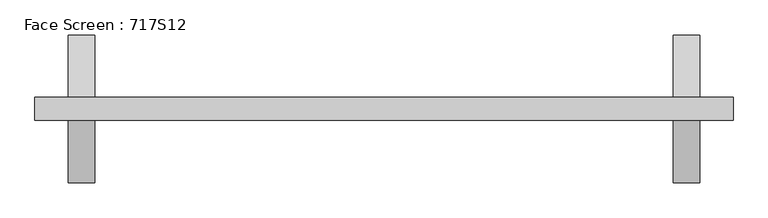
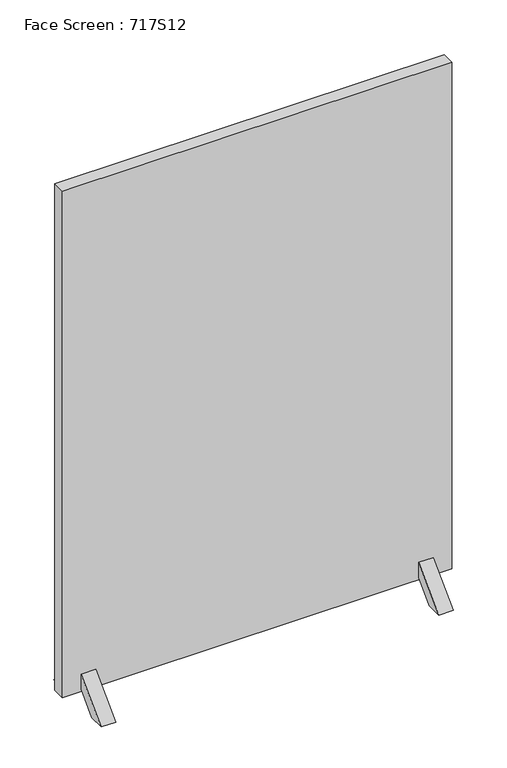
"""IFC4 building model written with IfcOpenShell, lengths in millimetres: furniture geometry, Face Screen : 717S12."""

import ifcopenshell
import ifcopenshell.guid

model = None  # the IFC model being written
_history = None  # IfcOwnerHistory: only IFC2X3 demands one
_inside = {}  # id of a spatial element -> (the spatial element, [elements in it])
_under = {}  # id of a project, library or spatial element -> (it, [spatial elements below it])
_declared = {}  # id of a project -> (the project, [libraries it declares])
_typed = {}  # id of a type object -> (the type object, [elements of that type])
_made_of = {}  # id of a material, layer set ... -> (it, [elements and type objects made of it])


def new_model(schema):
    """Start an empty IFC model of exactly this schema.

    Asked for "IFC4X3", IfcOpenShell would pick the latest addendum, in which some entities
    have other attributes; the version numbers below select the first issue.
    IFC2X3 requires an IfcOwnerHistory on every rooted entity: one is made here for all.
    """
    global model, _history
    if schema == "IFC4X3":
        model = ifcopenshell.file(schema_version=(4, 3, 0, 0))
    else:
        model = ifcopenshell.file(schema=schema)
    _inside.clear()
    _under.clear()
    _declared.clear()
    _typed.clear()
    _made_of.clear()
    _history = None
    if model.schema == "IFC2X3":
        org = make("IfcOrganization", Name="unknown")
        user = make(
            "IfcPersonAndOrganization",
            ThePerson=make("IfcPerson", FamilyName="unknown"),
            TheOrganization=org,
        )
        app = make(
            "IfcApplication",
            ApplicationDeveloper=org,
            Version="unknown",
            ApplicationFullName="unknown",
            ApplicationIdentifier="unknown",
        )
        _history = make(
            "IfcOwnerHistory",
            OwningUser=user,
            OwningApplication=app,
            ChangeAction="ADDED",
            CreationDate=0,
        )
    return model


def make(cls, **values):
    """One entity of the class cls with the attributes given. An attribute that is None is left unset."""
    return model.create_entity(
        cls, **{name: value for name, value in values.items() if value is not None}
    )


def rooted(cls, **values):
    """An entity with a GlobalId (a new one), such as an element, a storey or a relation."""
    return make(cls, GlobalId=ifcopenshell.guid.new(), OwnerHistory=_history, **values)


def si_unit(unit_type, name, prefix=None):
    """IfcSIUnit, for example si_unit("LENGTHUNIT", "METRE", prefix="MILLI")."""
    return make("IfcSIUnit", UnitType=unit_type, Prefix=prefix, Name=name)


def assignment(units):
    """IfcUnitAssignment: the units of a project."""
    return None if units is None else make("IfcUnitAssignment", Units=units)


def point(xyz):
    """IfcCartesianPoint."""
    return None if xyz is None else make("IfcCartesianPoint", Coordinates=xyz)


def direction(xyz):
    """IfcDirection."""
    return None if xyz is None else make("IfcDirection", DirectionRatios=xyz)


def frame(location, z_axis=None, x_axis=None):
    """IfcAxis2Placement3D, a coordinate frame: its origin and axes. An axis left out is left unset."""
    return make(
        "IfcAxis2Placement3D",
        Location=point(location),
        Axis=direction(z_axis),
        RefDirection=direction(x_axis),
    )


def origin():
    """The frame at (0, 0, 0) with its axes left unset."""
    return frame((0.0, 0.0, 0.0))


def place(relative_to, where):
    """IfcLocalPlacement: puts the frame where relative to a parent placement (None: the world)."""
    return make(
        "IfcLocalPlacement", PlacementRelTo=relative_to, RelativePlacement=where
    )


def context(
    kind, dimensions, precision=None, world=None, true_north=None, identifier=None
):
    """IfcGeometricRepresentationContext, for example the 3D "Model" context."""
    return make(
        "IfcGeometricRepresentationContext",
        ContextIdentifier=identifier,
        ContextType=kind,
        CoordinateSpaceDimension=dimensions,
        Precision=precision,
        WorldCoordinateSystem=world,
        TrueNorth=true_north,
    )


def project(units=None, contexts=None):
    """IfcProject with its units and contexts."""
    return rooted(
        "IfcProject",
        Name="project",
        RepresentationContexts=contexts,
        UnitsInContext=assignment(units),
    )


def spatial(cls, under=None, at=None, **own):
    """A site, building, storey or space (cls), placed at a placement, below another one or the project."""
    s = rooted(cls, ObjectPlacement=at, **own)
    if under is not None:
        _under.setdefault(under.id(), (under, []))[1].append(s)
    return s


def polyline(points):
    """IfcPolyline through the points."""
    return make("IfcPolyline", Points=[point(p) for p in points])


def outline(outer, holes=None, kind="AREA"):
    """IfcArbitraryClosedProfileDef: a profile drawn as a closed curve; with holes, ...WithVoids."""
    if holes is None:
        return make("IfcArbitraryClosedProfileDef", ProfileType=kind, OuterCurve=outer)
    return make(
        "IfcArbitraryProfileDefWithVoids",
        ProfileType=kind,
        OuterCurve=outer,
        InnerCurves=holes,
    )


def extrude(swept, where, along, depth):
    """IfcExtrudedAreaSolid: the profile swept, set in the frame where, extruded along a direction by depth."""
    return make(
        "IfcExtrudedAreaSolid",
        SweptArea=swept,
        Position=where,
        ExtrudedDirection=direction(along),
        Depth=depth,
    )


def faces_of(points, faces, orient=None, outer=None):
    """IfcFace entities. A face is a list of loops; a loop is a list of indices into points, from 0.

    orient and outer hold one flag for each loop. By default every Orientation is true, the
    first loop of a face is its IfcFaceOuterBound and the others are IfcFaceBound.
    """
    made = []
    for i, loops in enumerate(faces):
        bounds = []
        for j, loop in enumerate(loops):
            is_outer = j == 0 if outer is None else outer[i][j]
            bounds.append(
                make(
                    "IfcFaceOuterBound" if is_outer else "IfcFaceBound",
                    Bound=make("IfcPolyLoop", Polygon=[points[k] for k in loop]),
                    Orientation=True if orient is None else orient[i][j],
                )
            )
        made.append(make("IfcFace", Bounds=bounds))
    return made


def faceted_brep(points, faces, orient=None, outer=None, voids=None):
    """IfcFacetedBrep: a solid bounded by flat faces; with voids (closed shells), ...WithVoids."""
    shared = [point(p) for p in points]
    hull = make("IfcClosedShell", CfsFaces=faces_of(shared, faces, orient, outer))
    if voids is None:
        return make("IfcFacetedBrep", Outer=hull)
    return make(
        "IfcFacetedBrepWithVoids",
        Outer=hull,
        Voids=[
            make(cls, CfsFaces=faces_of(shared, fs, o, b)) for cls, fs, o, b in voids
        ],
    )


def shape(context_of_items, identifier, shape_type, items):
    """IfcShapeRepresentation: the items that make up one representation, for example the "Body"."""
    return make(
        "IfcShapeRepresentation",
        ContextOfItems=context_of_items,
        RepresentationIdentifier=identifier,
        RepresentationType=shape_type,
        Items=items,
    )


def source(mapping_origin, context_of_items, identifier, shape_type, items):
    """IfcRepresentationMap: a shape defined once, which mapped items show again and again."""
    return make(
        "IfcRepresentationMap",
        MappingOrigin=mapping_origin,
        MappedRepresentation=shape(context_of_items, identifier, shape_type, items),
    )


def transform(
    local_origin,
    x_axis=None,
    y_axis=None,
    z_axis=None,
    scale=None,
    scale2=None,
    scale3=None,
    uniform=True,
):
    """IfcCartesianTransformationOperator3D, or its non-uniform kind. x_axis, y_axis, z_axis: its Axis1, 2, 3."""
    if uniform:
        return make(
            "IfcCartesianTransformationOperator3D",
            Axis1=direction(x_axis),
            Axis2=direction(y_axis),
            LocalOrigin=point(local_origin),
            Scale=scale,
            Axis3=direction(z_axis),
        )
    return make(
        "IfcCartesianTransformationOperator3DnonUniform",
        Axis1=direction(x_axis),
        Axis2=direction(y_axis),
        LocalOrigin=point(local_origin),
        Scale=scale,
        Axis3=direction(z_axis),
        Scale2=scale2,
        Scale3=scale3,
    )


def mapped(mapping_source, mapping_target):
    """IfcMappedItem: shows the shape of a source again, moved by a transform."""
    return make(
        "IfcMappedItem", MappingSource=mapping_source, MappingTarget=mapping_target
    )


def made_of(thing, what):
    """Note that an element or type object is made of a material, layer set ...; save() writes the relation."""
    if what is not None:
        _made_of.setdefault(what.id(), (what, []))[1].append(thing)
    return thing


def element(
    cls,
    number,
    at=None,
    inside=None,
    cuts=None,
    type_object=None,
    material=None,
    context=None,
    identifier="Body",
    shape_type=None,
    held_by="IfcProductDefinitionShape",
    body=None,
    shapes=None,
    **own,
):
    """One element of the class cls, such as IfcWall. Its Tag is "e" and its number.

    at: its placement. inside: the storey or other place that contains it. cuts: it is an
    opening in that element (IfcRelVoidsElement). A single representation is given by context,
    identifier, shape_type and body (its items); several are given by shapes. held_by: the class
    of the entity that holds the representations. save() writes the other relations.
    """
    e = rooted(cls, Tag="e%d" % number, ObjectPlacement=at, **own)
    if body is not None:
        shapes = [shape(context, identifier, shape_type, body)]
    if shapes is not None:
        e.Representation = make(held_by, Representations=shapes)
    if inside is not None:
        _inside.setdefault(inside.id(), (inside, []))[1].append(e)
    if cuts is not None:
        rooted(
            "IfcRelVoidsElement", RelatingBuildingElement=cuts, RelatedOpeningElement=e
        )
    if type_object is not None:
        _typed.setdefault(type_object.id(), (type_object, []))[1].append(e)
    return made_of(e, material)


def aggregate(whole, parts):
    """IfcRelAggregates: a whole, such as a stair, and the parts it consists of."""
    return rooted("IfcRelAggregates", RelatingObject=whole, RelatedObjects=parts)


def save(model, path):
    """Write the relations noted so far, then the file.

    IfcRelAggregates (storeys below a building ...), IfcRelContainedInSpatialStructure (elements
    in a storey), IfcRelDefinesByType, IfcRelAssociatesMaterial and IfcRelDeclares: one each for
    every whole, place, type object, material and project.
    """
    for whole, parts in _under.values():
        aggregate(whole, parts)
    for where, things in _inside.values():
        rooted(
            "IfcRelContainedInSpatialStructure",
            RelatedElements=things,
            RelatingStructure=where,
        )
    for kind, things in _typed.values():
        rooted("IfcRelDefinesByType", RelatedObjects=things, RelatingType=kind)
    for what, things in _made_of.values():
        rooted("IfcRelAssociatesMaterial", RelatedObjects=things, RelatingMaterial=what)
    for by, libraries in _declared.values():
        rooted("IfcRelDeclares", RelatingContext=by, RelatedDefinitions=libraries)
    model.write(path)


def face_screen_717s12_8a0433d3(model_context):
    return source(origin(), model_context, "Body", "SolidModel", [
        faceted_brep([(509.0, 20.0, 50.0955899), (509.0, 20.0, 57.4960966), (509.0, 37.6776695, 39.8184271), (509.0, -37.6776695, 39.8184271), (509.0, -20.0, 57.4960966), (509.0, -20.0, 50.0955899), (497.5, -126.9935713, 0.0), (542.5, -126.9935713, 0.0), (542.5, -20.0, 106.9935713), (497.5, -20.0, 106.9935713), (497.5, -77.4960966, 0.0), (542.5, -77.4960966, 0.0), (497.5, -20.0, 57.4960966), (531.0, -37.6776695, 39.8184271), (531.0, -20.0, 57.4960966), (542.5, -20.0, 57.4960966), (531.0, 20.0, 50.0955899), (531.0, -20.0, 50.0955899), (531.0, 37.6776695, 39.8184271), (531.0, 20.0, 57.4960966), (542.5, 20.0, 57.4960966), (542.5, 20.0, 106.9935713), (497.5, 20.0, 106.9935713), (497.5, 20.0, 57.4960966), (497.5, 126.9935713, 0.0), (497.5, 77.4960966, 0.0), (542.5, 77.4960966, 0.0), (542.5, 126.9935713, 0.0)], [[[0, 1, 2, 3, 4, 5]], [[6, 7, 8, 9]], [[10, 11, 7, 6]], [[12, 4, 3, 13, 14, 15, 11, 10]], [[16, 17, 14, 13, 18, 19]], [[5, 17, 16, 0]], [[4, 12, 9, 8, 15, 14, 17, 5]], [[2, 18, 13, 3]], [[0, 16, 19, 20, 21, 22, 23, 1]], [[22, 24, 25, 23]], [[9, 12, 10, 6]], [[21, 20, 26, 27]], [[8, 7, 11, 15]], [[25, 26, 20, 19, 18, 2, 1, 23]], [[24, 27, 26, 25]], [[22, 21, 27, 24]]]),
        faceted_brep([(-509.0, -20.0, 50.0955899), (-509.0, -20.0, 57.4960966), (-509.0, -37.6776695, 39.8184271), (-509.0, 37.6776695, 39.8184271), (-509.0, 20.0, 57.4960966), (-509.0, 20.0, 50.0955899), (-497.5, 126.9935713, 0.0), (-542.5, 126.9935713, 0.0), (-542.5, 20.0, 106.9935713), (-497.5, 20.0, 106.9935713), (-497.5, 77.4960966, 0.0), (-542.5, 77.4960966, 0.0), (-497.5, 20.0, 57.4960966), (-531.0, 37.6776695, 39.8184271), (-531.0, 20.0, 57.4960966), (-542.5, 20.0, 57.4960966), (-531.0, -20.0, 50.0955899), (-531.0, 20.0, 50.0955899), (-531.0, -37.6776695, 39.8184271), (-531.0, -20.0, 57.4960966), (-542.5, -20.0, 57.4960966), (-542.5, -20.0, 106.9935713), (-497.5, -20.0, 106.9935713), (-497.5, -20.0, 57.4960966), (-497.5, -126.9935713, 0.0), (-497.5, -77.4960966, 0.0), (-542.5, -77.4960966, 0.0), (-542.5, -126.9935713, 0.0)], [[[0, 1, 2, 3, 4, 5]], [[6, 7, 8, 9]], [[10, 11, 7, 6]], [[12, 4, 3, 13, 14, 15, 11, 10]], [[16, 17, 14, 13, 18, 19]], [[5, 17, 16, 0]], [[4, 12, 9, 8, 15, 14, 17, 5]], [[2, 18, 13, 3]], [[0, 16, 19, 20, 21, 22, 23, 1]], [[22, 24, 25, 23]], [[9, 12, 10, 6]], [[21, 20, 26, 27]], [[8, 7, 11, 15]], [[25, 26, 20, 19, 18, 2, 1, 23]], [[24, 27, 26, 25]], [[22, 21, 27, 24]]]),
        extrude(outline(polyline([(600.0, 20.0), (600.0, -20.0), (-600.0, -20.0), (-600.0, 20.0), (600.0, 20.0)])), frame((0.0, 0.0, 50.0), z_axis=(0.0, 0.0, 1.0), x_axis=(1.0, 0.0, 0.0)), (0.0, 0.0, 1.0), 1650.0),
    ])


if __name__ == "__main__":
    model = new_model("IFC4")
    model_context = context("Model", 3, world=origin())
    ifc_project = project(units=[si_unit("LENGTHUNIT", "METRE", prefix="MILLI")], contexts=[model_context])
    site = spatial("IfcSite", under=ifc_project)
    building = spatial("IfcBuilding", under=site)
    placement = place(None, origin())
    face_screen_717s12_shape = face_screen_717s12_8a0433d3(model_context)
    element("IfcFurniture", 1, ObjectType="Face Screen : 717S12", at=placement, inside=building, context=model_context, shape_type="MappedRepresentation", body=[
        mapped(face_screen_717s12_shape, transform((0.0, 0.0, 0.0), x_axis=(1.0, 0.0, 0.0), y_axis=(0.0, 1.0, 0.0), z_axis=(0.0, 0.0, 1.0))),
    ])
    save(model, "model.ifc")
